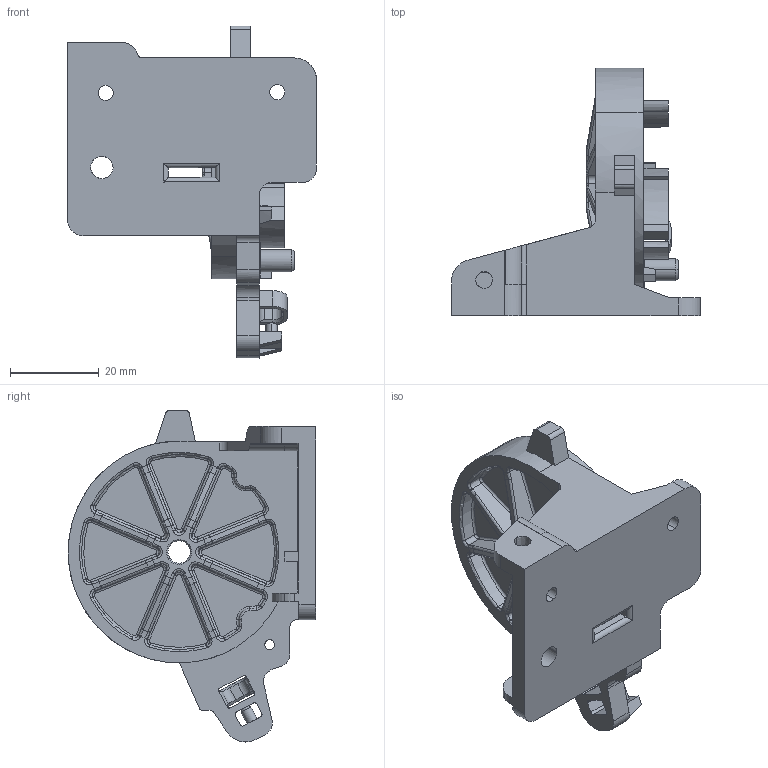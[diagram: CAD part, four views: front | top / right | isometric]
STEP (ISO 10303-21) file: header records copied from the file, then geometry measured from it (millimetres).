
FILE_DESCRIPTION(('CATIA V5 STEP Exchange'),'2;1');
FILE_NAME('F:\11-X3000\2.0平台提升\2.0外观提升\0807\1217更改方案\1220手工样件订单\SHT0012971-样件.stp','2020-12-21T06:39:32+00:00',('none'),('none'),'CATIA Version 5 Release 20 GA (IN-10)','CATIA V5 STEP AP203 Edition 2','none');
FILE_SCHEMA(('AP203_CONFIGURATION_CONTROLLED_3D_DESIGN_OF_MECHANICAL_PARTS_AND_ASSEMBLIES_MIM_LF { 1 0 10303 403 2 1 2}'));
Length unit declared in the file: millimetre
Products named in the file (1): liba288C569Eo28z
Bounding box: 56 x 55.71 x 74.7 mm (x, y, z)
Volume: 25153.6 mm3; surface area: 17371.9 mm2
Topology: 1 solids, 1 shells, 510 faces, 1400 edges, 896 vertices
Faces by surface type: cylinder 174, plane 146, bspline 140, torus 28, cone 18, extrusion 4
Entity records: 24059 total; most frequent: CARTESIAN_POINT 13002, ORIENTED_EDGE 2800, DIRECTION 1404, EDGE_CURVE 1400, VERTEX_POINT 896, B_SPLINE_CURVE_WITH_KNOTS 732, AXIS2_PLACEMENT_3D 537, EDGE_LOOP 534
